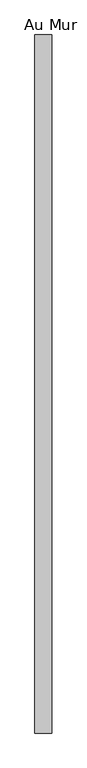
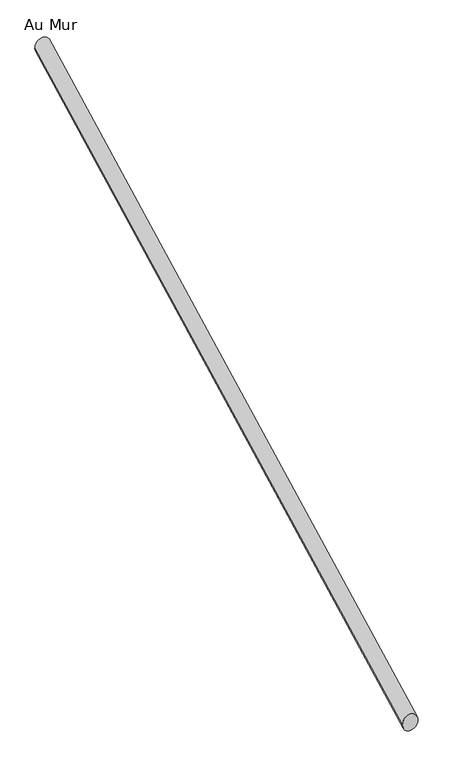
"""IFC4 building model written with IfcOpenShell, lengths in millimetres: railing geometry, Au Mur."""

from ifc_helpers import new_model, si_unit, frame, origin, place, context, project, spatial, ellipse_curve, source, transform, mapped, element, save
from ifc_brep_helpers import plane_surface, cylinder_surface, advanced_brep


def au_mur_52aa67d5(model_context):
    return source(origin(), model_context, "Body", "AdvancedBrep", [
        advanced_brep(
        [(-3984.3891754, -11586.5819901, 1296.4281805), (-3954.3891754, -11586.5819901, 1296.4281805), (-3984.3891754, -10346.5819901, 1936.4281805), (-3954.3891754, -10346.5819901, 1936.4281805)],
        [
            (0, 1, ellipse_curve(frame((-3969.3891754, -11586.5819901, 1296.4281805), z_axis=(0.0, -1.0, 0.0), x_axis=(0.0, 0.0, -1.0)), 16.8800938, 15.0)),
            (1, 0, ellipse_curve(frame((-3969.3891754, -11586.5819901, 1296.4281805), z_axis=(0.0, -1.0, 0.0), x_axis=(0.0, 0.0, -1.0)), 16.8800938, 15.0)),
            (2, 3, ellipse_curve(frame((-3969.3891754, -10346.5819901, 1936.4281805), z_axis=(0.0, 1.0, 0.0), x_axis=(0.0, 0.0, -1.0)), 16.8800938, 15.0)),
            (3, 2, ellipse_curve(frame((-3969.3891754, -10346.5819901, 1936.4281805), z_axis=(0.0, 1.0, 0.0), x_axis=(0.0, 0.0, -1.0)), 16.8800938, 15.0)),
            (0, 2),
            (3, 1),
        ],
        [
            plane_surface(frame((-3969.3891754, -11586.5819901, 1313.3082742), z_axis=(0.0, -1.0, 0.0), x_axis=(0.0, 0.0, 1.0))),
            plane_surface(frame((-3969.3891754, -10346.5819901, 1953.3082742), z_axis=(0.0, 1.0, 0.0), x_axis=(0.0, 0.0, 1.0))),
            cylinder_surface(frame((-3969.3891754, -11579.7023464, 1299.9789644), z_axis=(0.0, -0.8886206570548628, -0.45864291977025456), x_axis=(1.0, 0.0, 0.0)), 15.0),
        ],
        [
            (0, [[1, 2]]),
            (1, [[3, 4]]),
            (2, [[-1, 5, -4, 6]]),
            (2, [[-2, -6, -3, -5]]),
        ],
    ),
    ])


if __name__ == "__main__":
    model = new_model("IFC4")
    model_context = context("Model", 3, world=origin())
    ifc_project = project(units=[si_unit("LENGTHUNIT", "METRE", prefix="MILLI")], contexts=[model_context])
    site = spatial("IfcSite", under=ifc_project)
    building = spatial("IfcBuilding", under=site)
    placement = place(None, origin())
    au_mur_shape = au_mur_52aa67d5(model_context)
    element("IfcRailing", 1, ObjectType="Au Mur", at=placement, inside=building, context=model_context, shape_type="MappedRepresentation", body=[
        mapped(au_mur_shape, transform((0.0, 0.0, 0.0), x_axis=(1.0, 0.0, 0.0), y_axis=(0.0, 1.0, 0.0), z_axis=(0.0, 0.0, 1.0))),
    ])
    save(model, "model.ifc")
